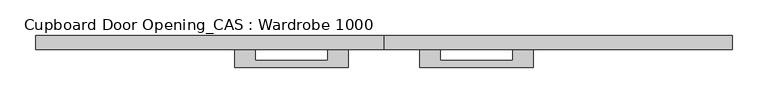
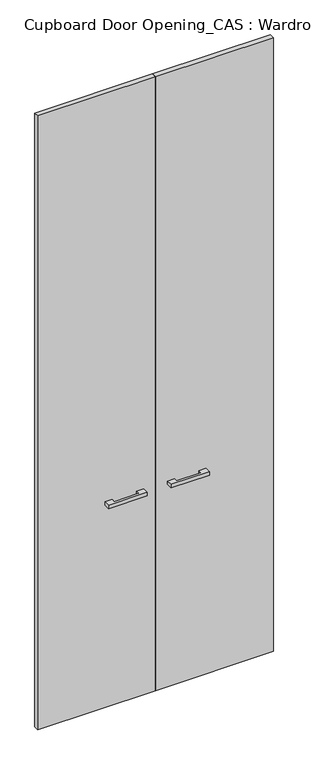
"""IFC4 building model written with IfcOpenShell, lengths in millimetres: furniture geometry, Cupboard Door Opening_CAS : Wardrobe 1000."""

from ifc_helpers import new_model, si_unit, frame, origin, origin_with_axes, place, context, project, spatial, polyline, outline, extrude, source, transform, mapped, element, save


def cupboard_door_opening_cas_wardrobe_1000_e69c7a8c(model_context):
    return source(origin(), model_context, "Body", "SweptSolid", [
        extrude(outline(polyline([(175.0, -84.0), (175.0, -59.0), (204.0, -59.0), (204.0, -74.0), (306.0, -74.0), (306.0, -59.0), (335.0, -59.0), (335.0, -84.0), (175.0, -84.0)])), frame((0.0, 0.0, 887.5), z_axis=(0.0, 0.0, 1.0), x_axis=(1.0, 0.0, 0.0)), (0.0, 0.0, 1.0), 15.0),
        extrude(outline(polyline([(615.0, -59.0), (125.0, -59.0), (125.0, -39.0), (615.0, -39.0), (615.0, -59.0)])), origin_with_axes(), (0.0, 0.0, 1.0), 2695.0),
        extrude(outline(polyline([(75.0, -84.0), (-85.0, -84.0), (-85.0, -59.0), (-56.0, -59.0), (-56.0, -74.0), (46.0, -74.0), (46.0, -59.0), (75.0, -59.0), (75.0, -84.0)])), frame((0.0, 0.0, 887.5), z_axis=(0.0, 0.0, 1.0), x_axis=(1.0, 0.0, 0.0)), (0.0, 0.0, 1.0), 15.0),
        extrude(outline(polyline([(-365.0, -59.0), (-365.0, -39.0), (125.0, -39.0), (125.0, -59.0), (-365.0, -59.0)])), origin_with_axes(), (0.0, 0.0, 1.0), 2695.0),
    ])


if __name__ == "__main__":
    model = new_model("IFC4")
    model_context = context("Model", 3, world=origin())
    ifc_project = project(units=[si_unit("LENGTHUNIT", "METRE", prefix="MILLI")], contexts=[model_context])
    site = spatial("IfcSite", under=ifc_project)
    building = spatial("IfcBuilding", under=site)
    placement = place(None, origin())
    cupboard_door_opening_cas_wardrobe_1000_shape = cupboard_door_opening_cas_wardrobe_1000_e69c7a8c(model_context)
    element("IfcFurniture", 1, ObjectType="Cupboard Door Opening_CAS : Wardrobe 1000", at=placement, inside=building, context=model_context, shape_type="MappedRepresentation", body=[
        mapped(cupboard_door_opening_cas_wardrobe_1000_shape, transform((0.0, 0.0, 0.0), x_axis=(1.0, 0.0, 0.0), y_axis=(0.0, 1.0, 0.0), z_axis=(0.0, 0.0, 1.0))),
    ])
    save(model, "model.ifc")
